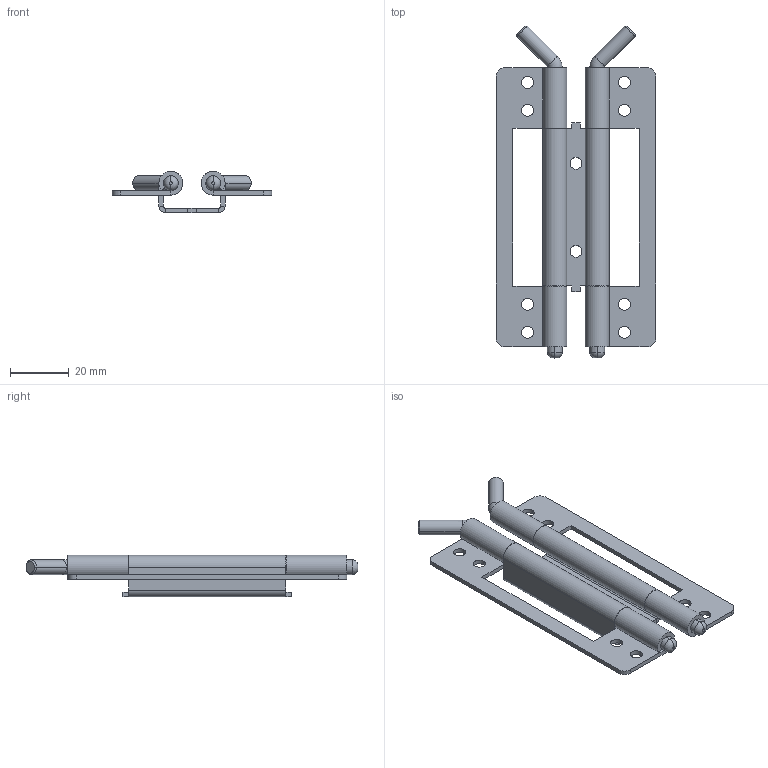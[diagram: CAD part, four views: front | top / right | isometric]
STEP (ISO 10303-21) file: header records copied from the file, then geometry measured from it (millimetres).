
FILE_DESCRIPTION (( 'STEP AP214' ), '1' );
FILE_NAME ('3.ST54.001.STEP', '2010-06-02T10:26:01', ( 'Techniczny' ), ( 'RST Roztocze' ), 'SwSTEP 2.0', 'SolidWorks 2010', '' );
FILE_SCHEMA (( 'AUTOMOTIVE_DESIGN' ));
Length unit declared in the file: millimetre
Products named in the file (4): 3.ST54.001; 3.ST54.001.01; 3.ST54.001.02; 3.ST54.001.03
Assembly tree (5 placements, depth 2):
  3.ST54.001
    3.ST54.001.02  x2
    3.ST54.001.03  x2
    3.ST54.001.01
Bounding box: 54.4 x 112.91 x 14.05 mm (x, y, z)
Volume: 15801.8 mm3; surface area: 20272.5 mm2
Topology: 5 solids, 5 shells, 122 faces, 284 edges, 172 vertices
Faces by surface type: plane 62, cylinder 48, torus 8, cone 4
Entity records: 2494 total; most frequent: DIRECTION 440, CARTESIAN_POINT 394, ORIENTED_EDGE 380, EDGE_CURVE 190, AXIS2_PLACEMENT_3D 160, VECTOR 120, LINE 120, VERTEX_POINT 114
